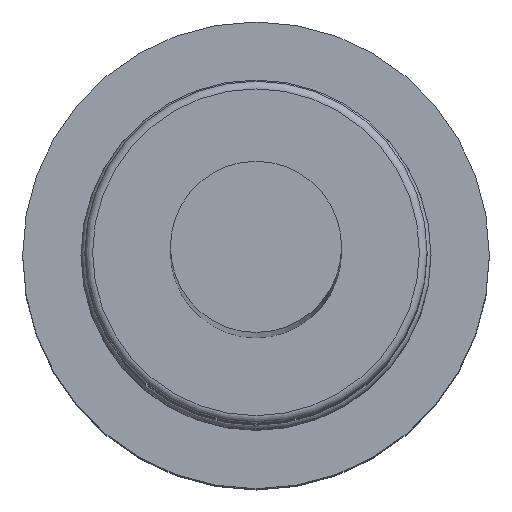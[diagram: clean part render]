
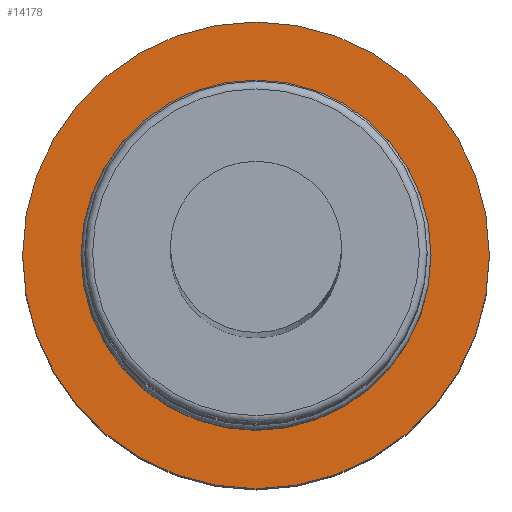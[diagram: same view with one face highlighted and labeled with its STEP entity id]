
A CAD part, top view. The second image highlights one B-rep face of the part: STEP entity #14178.
In plain terms, the highlighted planar face has unit normal (0, 0, 1).
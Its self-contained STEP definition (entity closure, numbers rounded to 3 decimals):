
#1013=FACE_BOUND('',#3035,.T.);
#1385=PLANE('',#15573);
#2154=FACE_OUTER_BOUND('',#3034,.T.);
#3034=EDGE_LOOP('',(#12561));
#3035=EDGE_LOOP('',(#12562));
#5479=CIRCLE('',#15572,5.625);
#5480=CIRCLE('',#15574,7.5);
#6779=VERTEX_POINT('',#30218);
#6780=VERTEX_POINT('',#30222);
#8716=EDGE_CURVE('',#6779,#6779,#5479,.T.);
#8717=EDGE_CURVE('',#6780,#6780,#5480,.T.);
#12561=ORIENTED_EDGE('',*,*,#8717,.F.);
#12562=ORIENTED_EDGE('',*,*,#8716,.F.);
#14178=ADVANCED_FACE('',(#2154,#1013),#1385,.F.);
#15572=AXIS2_PLACEMENT_3D('',#30220,#18581,#18582);
#15573=AXIS2_PLACEMENT_3D('',#30221,#18583,#18584);
#15574=AXIS2_PLACEMENT_3D('',#30223,#18585,#18586);
#18581=DIRECTION('center_axis',(0.,0.,1.));
#18582=DIRECTION('ref_axis',(-1.,0.,0.));
#18583=DIRECTION('center_axis',(0.,0.,-1.));
#18584=DIRECTION('ref_axis',(-1.,0.,0.));
#18585=DIRECTION('center_axis',(0.,0.,-1.));
#18586=DIRECTION('ref_axis',(1.,0.,0.));
#30218=CARTESIAN_POINT('',(5.625,0.,0.));
#30220=CARTESIAN_POINT('Origin',(0.,0.,0.));
#30221=CARTESIAN_POINT('Origin',(0.,0.,0.));
#30222=CARTESIAN_POINT('',(-7.5,0.,0.));
#30223=CARTESIAN_POINT('Origin',(0.,0.,0.));
